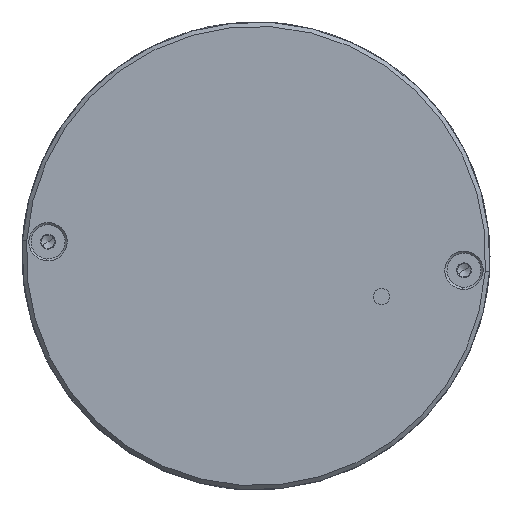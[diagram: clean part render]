
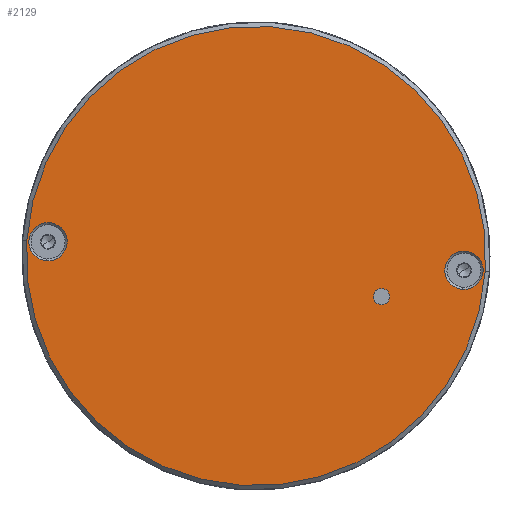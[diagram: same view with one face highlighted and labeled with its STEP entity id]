
A CAD part, front view. The second image highlights one B-rep face of the part: STEP entity #2129.
In plain terms, the highlighted planar face has unit normal (0, -1, 0).
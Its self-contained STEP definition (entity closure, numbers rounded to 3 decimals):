
#667 = AXIS2_PLACEMENT_3D ( 'NONE', #7867, #15399, #4130 ) ;
#798 = PLANE ( 'NONE',  #23585 ) ;
#955 = CARTESIAN_POINT ( 'NONE',  ( 27., 0., 0. ) ) ;
#1713 = EDGE_LOOP ( 'NONE', ( #2316, #22216 ) ) ;
#2031 = AXIS2_PLACEMENT_3D ( 'NONE', #3902, #2044, #2534 ) ;
#2044 = DIRECTION ( 'NONE',  ( 0., -1., 0. ) ) ;
#2129 = ADVANCED_FACE ( 'NONE', ( #19609, #19497, #23100, #13901 ), #798, .T. ) ;
#2237 = CIRCLE ( 'NONE', #667, 2.25 ) ;
#2316 = ORIENTED_EDGE ( 'NONE', *, *, #19303, .T. ) ;
#2411 = DIRECTION ( 'NONE',  ( 0., -1., 0. ) ) ;
#2534 = DIRECTION ( 'NONE',  ( 1., 0., 0. ) ) ;
#2636 = VERTEX_POINT ( 'NONE', #19102 ) ;
#2756 = DIRECTION ( 'NONE',  ( 1., 0., 0. ) ) ;
#3902 = CARTESIAN_POINT ( 'NONE',  ( 15.04, 0., -3.75 ) ) ;
#4010 = ORIENTED_EDGE ( 'NONE', *, *, #14209, .F. ) ;
#4071 = AXIS2_PLACEMENT_3D ( 'NONE', #20853, #15634, #13518 ) ;
#4130 = DIRECTION ( 'NONE',  ( 0., 0., -1. ) ) ;
#4268 = DIRECTION ( 'NONE',  ( 1., 0., 0. ) ) ;
#4342 = ORIENTED_EDGE ( 'NONE', *, *, #10701, .F. ) ;
#4489 = DIRECTION ( 'NONE',  ( 0., -1., 0. ) ) ;
#4638 = CIRCLE ( 'NONE', #17701, 27. ) ;
#5042 = CIRCLE ( 'NONE', #16916, 27. ) ;
#5179 = CARTESIAN_POINT ( 'NONE',  ( 24.5, 0., 0. ) ) ;
#6565 = EDGE_LOOP ( 'NONE', ( #18469, #12257 ) ) ;
#7240 = VERTEX_POINT ( 'NONE', #19643 ) ;
#7496 = DIRECTION ( 'NONE',  ( 0., 0., -1. ) ) ;
#7541 = EDGE_CURVE ( 'NONE', #2636, #21904, #23395, .T. ) ;
#7650 = CARTESIAN_POINT ( 'NONE',  ( -24.5, 0., -2.25 ) ) ;
#7867 = CARTESIAN_POINT ( 'NONE',  ( -24.5, 0., 0. ) ) ;
#8343 = CARTESIAN_POINT ( 'NONE',  ( 0., 0., 0. ) ) ;
#9399 = DIRECTION ( 'NONE',  ( 0., -1., 0. ) ) ;
#9603 = CIRCLE ( 'NONE', #4071, 2.25 ) ;
#10070 = CIRCLE ( 'NONE', #23911, 0.95 ) ;
#10701 = EDGE_CURVE ( 'NONE', #7240, #22399, #9603, .T. ) ;
#10824 = ORIENTED_EDGE ( 'NONE', *, *, #23538, .F. ) ;
#11471 = CARTESIAN_POINT ( 'NONE',  ( 14.09, 0., -3.75 ) ) ;
#11643 = VERTEX_POINT ( 'NONE', #14532 ) ;
#12257 = ORIENTED_EDGE ( 'NONE', *, *, #14190, .F. ) ;
#12414 = CIRCLE ( 'NONE', #16787, 2.25 ) ;
#13518 = DIRECTION ( 'NONE',  ( 0., 0., -1. ) ) ;
#13901 = FACE_OUTER_BOUND ( 'NONE', #1713, .T. ) ;
#14190 = EDGE_CURVE ( 'NONE', #21904, #2636, #10070, .T. ) ;
#14209 = EDGE_CURVE ( 'NONE', #22399, #7240, #12414, .T. ) ;
#14518 = DIRECTION ( 'NONE',  ( 1., 0., 0. ) ) ;
#14532 = CARTESIAN_POINT ( 'NONE',  ( -27., 0., 0. ) ) ;
#15397 = EDGE_LOOP ( 'NONE', ( #23249, #10824 ) ) ;
#15399 = DIRECTION ( 'NONE',  ( 0., -1., 0. ) ) ;
#15634 = DIRECTION ( 'NONE',  ( 0., -1., 0. ) ) ;
#16787 = AXIS2_PLACEMENT_3D ( 'NONE', #5179, #9399, #20660 ) ;
#16916 = AXIS2_PLACEMENT_3D ( 'NONE', #21448, #4489, #2756 ) ;
#17129 = VERTEX_POINT ( 'NONE', #955 ) ;
#17537 = CIRCLE ( 'NONE', #24251, 2.25 ) ;
#17701 = AXIS2_PLACEMENT_3D ( 'NONE', #18360, #24173, #14518 ) ;
#18360 = CARTESIAN_POINT ( 'NONE',  ( 0., 0., 0. ) ) ;
#18469 = ORIENTED_EDGE ( 'NONE', *, *, #7541, .F. ) ;
#18800 = DIRECTION ( 'NONE',  ( 1., 0., 0. ) ) ;
#18945 = EDGE_CURVE ( 'NONE', #17129, #11643, #4638, .T. ) ;
#19000 = CARTESIAN_POINT ( 'NONE',  ( -24.5, 0., 2.25 ) ) ;
#19102 = CARTESIAN_POINT ( 'NONE',  ( 15.99, 0., -3.75 ) ) ;
#19303 = EDGE_CURVE ( 'NONE', #11643, #17129, #5042, .T. ) ;
#19497 = FACE_BOUND ( 'NONE', #21334, .T. ) ;
#19609 = FACE_BOUND ( 'NONE', #6565, .T. ) ;
#19643 = CARTESIAN_POINT ( 'NONE',  ( 24.5, 0., -2.25 ) ) ;
#20417 = DIRECTION ( 'NONE',  ( 0., -1., 0. ) ) ;
#20660 = DIRECTION ( 'NONE',  ( 0., 0., -1. ) ) ;
#20853 = CARTESIAN_POINT ( 'NONE',  ( 24.5, 0., 0. ) ) ;
#21229 = CARTESIAN_POINT ( 'NONE',  ( 24.5, 0., 2.25 ) ) ;
#21334 = EDGE_LOOP ( 'NONE', ( #4342, #4010 ) ) ;
#21448 = CARTESIAN_POINT ( 'NONE',  ( 0., 0., 0. ) ) ;
#21904 = VERTEX_POINT ( 'NONE', #11471 ) ;
#21981 = VERTEX_POINT ( 'NONE', #7650 ) ;
#22216 = ORIENTED_EDGE ( 'NONE', *, *, #18945, .T. ) ;
#22374 = VERTEX_POINT ( 'NONE', #19000 ) ;
#22399 = VERTEX_POINT ( 'NONE', #21229 ) ;
#22411 = EDGE_CURVE ( 'NONE', #21981, #22374, #2237, .T. ) ;
#22485 = CARTESIAN_POINT ( 'NONE',  ( -24.5, 0., 0. ) ) ;
#23100 = FACE_BOUND ( 'NONE', #15397, .T. ) ;
#23249 = ORIENTED_EDGE ( 'NONE', *, *, #22411, .F. ) ;
#23395 = CIRCLE ( 'NONE', #2031, 0.95 ) ;
#23538 = EDGE_CURVE ( 'NONE', #22374, #21981, #17537, .T. ) ;
#23585 = AXIS2_PLACEMENT_3D ( 'NONE', #8343, #2411, #4268 ) ;
#23911 = AXIS2_PLACEMENT_3D ( 'NONE', #24378, #20417, #18800 ) ;
#24173 = DIRECTION ( 'NONE',  ( 0., -1., 0. ) ) ;
#24251 = AXIS2_PLACEMENT_3D ( 'NONE', #22485, #24456, #7496 ) ;
#24378 = CARTESIAN_POINT ( 'NONE',  ( 15.04, 0., -3.75 ) ) ;
#24456 = DIRECTION ( 'NONE',  ( 0., -1., 0. ) ) ;
